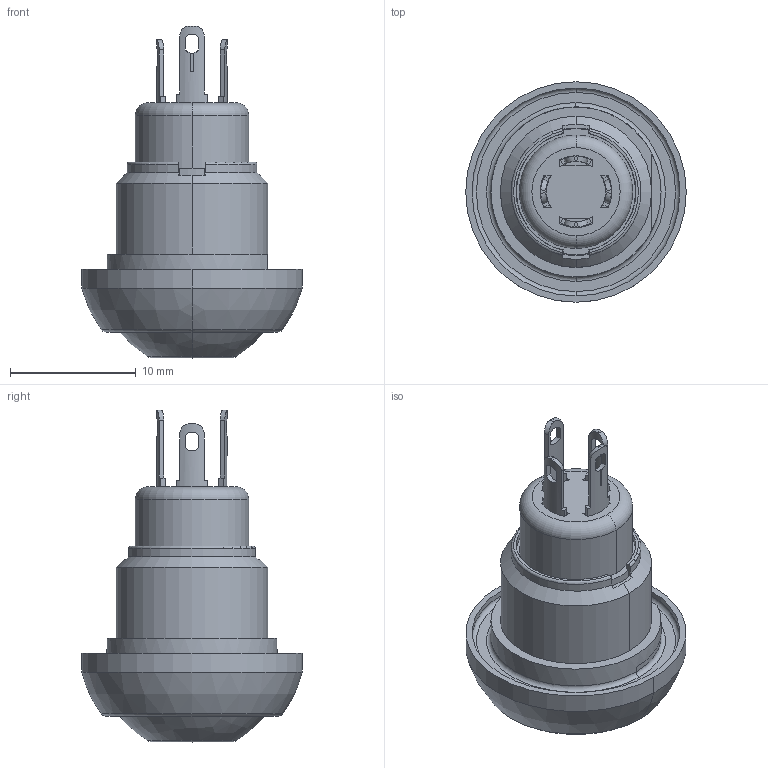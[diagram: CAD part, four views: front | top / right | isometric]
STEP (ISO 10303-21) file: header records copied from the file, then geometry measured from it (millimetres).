
FILE_DESCRIPTION((''),'2;1');
FILE_NAME('IPR3SAD2LOG','2013-12-20T',('jpetit'),(''),'PRO/ENGINEER BY PARAMETRIC TECHNOLOGY CORPORATION, 2012480','PRO/ENGINEER BY PARAMETRIC TECHNOLOGY CORPORATION, 2012480','');
FILE_SCHEMA(('CONFIG_CONTROL_DESIGN'));
Length unit declared in the file: millimetre
Products named in the file (1): IPR3SAD2LOG
Bounding box: 17.5 x 17.5 x 26.35 mm (x, y, z)
Volume: 1569.9 mm3; surface area: 2731 mm2
Topology: 1 solids, 1 shells, 309 faces, 846 edges, 540 vertices
Faces by surface type: plane 167, cylinder 96, torus 22, cone 16, sphere 6, bspline 2
Entity records: 10447 total; most frequent: CARTESIAN_POINT 2485, ORIENTED_EDGE 1688, DIRECTION 1658, EDGE_CURVE 844, AXIS2_PLACEMENT_3D 608, VERTEX_POINT 540, VECTOR 442, LINE 442
